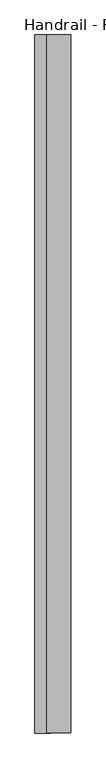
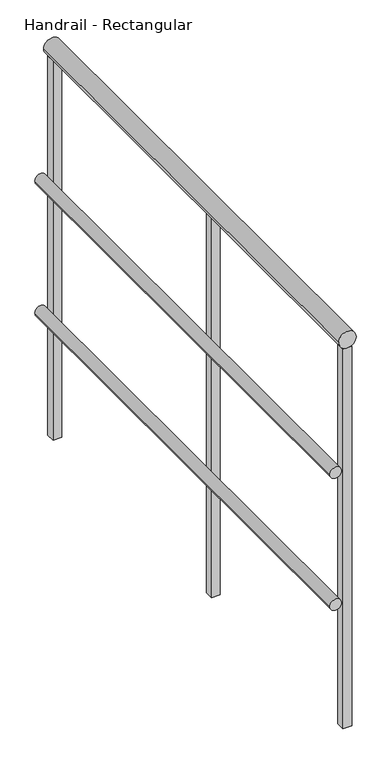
"""IFC4 building model written with IfcOpenShell, lengths in millimetres: railing geometry, Handrail - Rectangular."""

from ifc_helpers import new_model, si_unit, point, frame, frame_2d, origin, place, context, project, spatial, polyline, circle_curve, trimmed, segment, composite_curve, outline, extrude, source, transform, mapped, element, save


def handrail_rectangular_cacec26f(model_context):
    return source(origin(), model_context, "Body", "SweptSolid", [
        extrude(outline(composite_curve([segment(trimmed(circle_curve(frame_2d((9740.9, -18476.8839563)), 12.7), [point((9740.9, -18489.5839563))], [point((9740.9, -18464.1839563))], False, "CARTESIAN"), True, "CONTINUOUS"), segment(trimmed(circle_curve(frame_2d((9740.9, -18476.8839563)), 12.7), [point((9740.9, -18464.1839563))], [point((9740.9, -18489.5839563))], False, "CARTESIAN"), True, "CONTINUOUS")], self_intersect=False)), frame((0.0, 10624.0316867, 0.0), z_axis=(0.0, 1.0, 0.0), x_axis=(0.0, 0.0, 1.0)), (0.0, 0.0, 1.0), 1117.6),
        extrude(outline(composite_curve([segment(trimmed(circle_curve(frame_2d((9436.1, -18476.8839563)), 12.7), [point((9436.1, -18489.5839563))], [point((9436.1, -18464.1839563))], False, "CARTESIAN"), True, "CONTINUOUS"), segment(trimmed(circle_curve(frame_2d((9436.1, -18476.8839563)), 12.7), [point((9436.1, -18464.1839563))], [point((9436.1, -18489.5839563))], False, "CARTESIAN"), True, "CONTINUOUS")], self_intersect=False)), frame((0.0, 10624.0316867, 0.0), z_axis=(0.0, 1.0, 0.0), x_axis=(0.0, 0.0, 1.0)), (0.0, 0.0, 1.0), 1117.6),
        extrude(outline(composite_curve([segment(trimmed(circle_curve(frame_2d((10039.35, -18451.4839563)), 19.05), [point((10039.35, -18470.5339563))], [point((10039.35, -18432.4339563))], False, "CARTESIAN"), True, "CONTINUOUS"), segment(trimmed(circle_curve(frame_2d((10039.35, -18451.4839563)), 19.05), [point((10039.35, -18432.4339563))], [point((10039.35, -18470.5339563))], False, "CARTESIAN"), True, "CONTINUOUS")], self_intersect=False)), frame((0.0, 10624.0316867, 0.0), z_axis=(0.0, 1.0, 0.0), x_axis=(0.0, 0.0, 1.0)), (0.0, 0.0, 1.0), 1117.6),
        extrude(outline(polyline([(-18441.9589563, 11141.5566867), (-18441.9589563, 11122.5066867), (-18461.0089563, 11122.5066867), (-18461.0089563, 11141.5566867), (-18441.9589563, 11141.5566867)])), frame((0.0, 0.0, 9144.0), z_axis=(0.0, 0.0, 1.0), x_axis=(1.0, 0.0, 0.0)), (0.0, 0.0, 1.0), 876.3),
        extrude(outline(polyline([(-18441.9589563, 10643.0816867), (-18441.9589563, 10624.0316867), (-18461.0089563, 10624.0316867), (-18461.0089563, 10643.0816867), (-18441.9589563, 10643.0816867)])), frame((0.0, 0.0, 9144.0), z_axis=(0.0, 0.0, 1.0), x_axis=(1.0, 0.0, 0.0)), (0.0, 0.0, 1.0), 876.3),
        extrude(outline(polyline([(-18441.9589563, 11741.6316867), (-18441.9589563, 11722.5816867), (-18461.0089563, 11722.5816867), (-18461.0089563, 11741.6316867), (-18441.9589563, 11741.6316867)])), frame((0.0, 0.0, 9144.0), z_axis=(0.0, 0.0, 1.0), x_axis=(1.0, 0.0, 0.0)), (0.0, 0.0, 1.0), 876.3),
    ])


if __name__ == "__main__":
    model = new_model("IFC4")
    model_context = context("Model", 3, world=origin())
    ifc_project = project(units=[si_unit("LENGTHUNIT", "METRE", prefix="MILLI")], contexts=[model_context])
    site = spatial("IfcSite", under=ifc_project)
    building = spatial("IfcBuilding", under=site)
    placement = place(None, origin())
    handrail_rectangular_shape = handrail_rectangular_cacec26f(model_context)
    element("IfcRailing", 1, ObjectType="Handrail - Rectangular", at=placement, inside=building, context=model_context, shape_type="MappedRepresentation", body=[
        mapped(handrail_rectangular_shape, transform((0.0, 0.0, 0.0), x_axis=(1.0, 0.0, 0.0), y_axis=(0.0, 1.0, 0.0), z_axis=(0.0, 0.0, 1.0))),
    ])
    save(model, "model.ifc")
